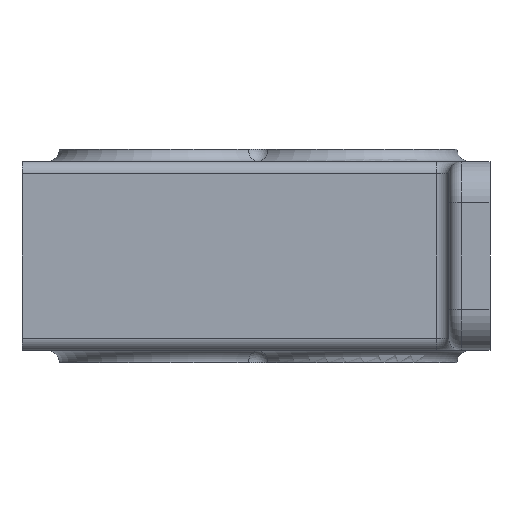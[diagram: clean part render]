
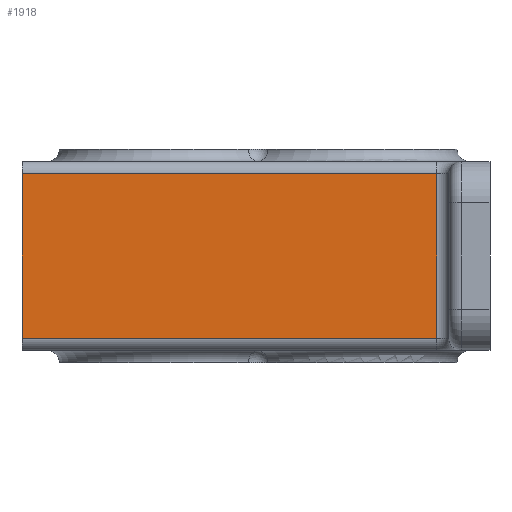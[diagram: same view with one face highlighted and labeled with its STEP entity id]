
A CAD part, left-side view. The second image highlights one B-rep face of the part: STEP entity #1918.
In plain terms, the highlighted planar face has unit normal (-1, 0, 0).
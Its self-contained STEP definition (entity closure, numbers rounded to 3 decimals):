
#72=LINE('',#3367,#148);
#77=LINE('',#3405,#153);
#79=LINE('',#3409,#155);
#80=LINE('',#3411,#156);
#148=VECTOR('',#2763,101.);
#153=VECTOR('',#2814,101.);
#155=VECTOR('',#2820,40.);
#156=VECTOR('',#2823,40.);
#271=PLANE('',#2209);
#484=FACE_OUTER_BOUND('',#695,.T.);
#695=EDGE_LOOP('',(#1661,#1662,#1663,#1664));
#1055=VERTEX_POINT('',#3364);
#1056=VERTEX_POINT('',#3366);
#1065=VERTEX_POINT('',#3399);
#1066=VERTEX_POINT('',#3403);
#1257=EDGE_CURVE('',#1055,#1056,#72,.T.);
#1277=EDGE_CURVE('',#1065,#1066,#77,.T.);
#1279=EDGE_CURVE('',#1056,#1065,#79,.T.);
#1280=EDGE_CURVE('',#1066,#1055,#80,.T.);
#1661=ORIENTED_EDGE('',*,*,#1277,.F.);
#1662=ORIENTED_EDGE('',*,*,#1279,.F.);
#1663=ORIENTED_EDGE('',*,*,#1257,.F.);
#1664=ORIENTED_EDGE('',*,*,#1280,.F.);
#1918=ADVANCED_FACE('',(#484),#271,.T.);
#2209=AXIS2_PLACEMENT_3D('',#3420,#2831,#2832);
#2763=DIRECTION('',(0.,-1.,0.));
#2814=DIRECTION('',(0.,1.,0.));
#2820=DIRECTION('',(0.,0.,-1.));
#2823=DIRECTION('',(0.,0.,1.));
#2831=DIRECTION('center_axis',(-1.,0.,0.));
#2832=DIRECTION('ref_axis',(0.,-1.,0.));
#3364=CARTESIAN_POINT('',(-37.,109.,20.));
#3366=CARTESIAN_POINT('',(-37.,8.,20.));
#3367=CARTESIAN_POINT('',(-37.,76.012,20.));
#3399=CARTESIAN_POINT('',(-37.,8.,-20.));
#3403=CARTESIAN_POINT('',(-37.,109.,-20.));
#3405=CARTESIAN_POINT('',(-37.,76.012,-20.));
#3409=CARTESIAN_POINT('',(-37.,8.,0.));
#3411=CARTESIAN_POINT('',(-37.,109.,0.));
#3420=CARTESIAN_POINT('Origin',(-37.,109.,0.));
